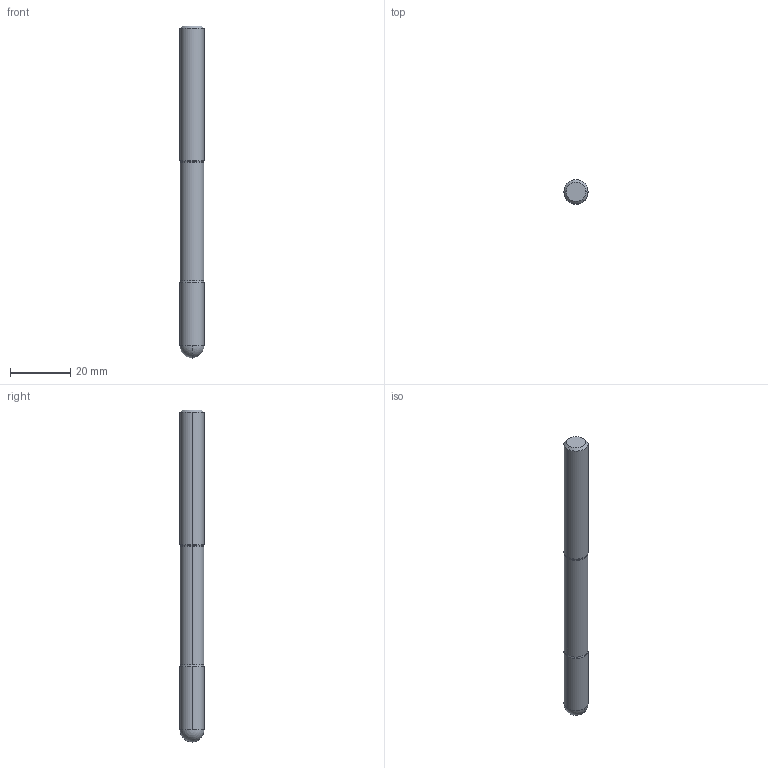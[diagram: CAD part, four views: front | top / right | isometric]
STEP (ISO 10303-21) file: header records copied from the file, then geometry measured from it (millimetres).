
FILE_DESCRIPTION (( 'STEP AP214' ), '1' );
FILE_NAME ('568.080.75_3D-model.step', '2023-08-21T08:15:57', ( '' ), ( '' ), 'SwSTEP 2.0', 'SolidWorks 2020', '' );
FILE_SCHEMA (( 'AUTOMOTIVE_DESIGN' ));
Length unit declared in the file: millimetre
Products named in the file (3): CUT-3D^Baugr207; 568.080.75_3D-model; NOCUT-3D^Baugr207
Assembly tree (2 placements, depth 2):
  568.080.75_3D-model
    CUT-3D^Baugr207
    NOCUT-3D^Baugr207
Bounding box: 8 x 8 x 110 mm (x, y, z)
Volume: 5355.7 mm3; surface area: 2878.2 mm2
Topology: 2 solids, 2 shells, 19 faces, 38 edges, 21 vertices
Faces by surface type: cylinder 6, cone 6, plane 3, sphere 2, torus 2
Entity records: 604 total; most frequent: DIRECTION 114, CARTESIAN_POINT 84, ORIENTED_EDGE 72, AXIS2_PLACEMENT_3D 51, EDGE_CURVE 36, CIRCLE 24, VERTEX_POINT 21, FACE_OUTER_BOUND 19
